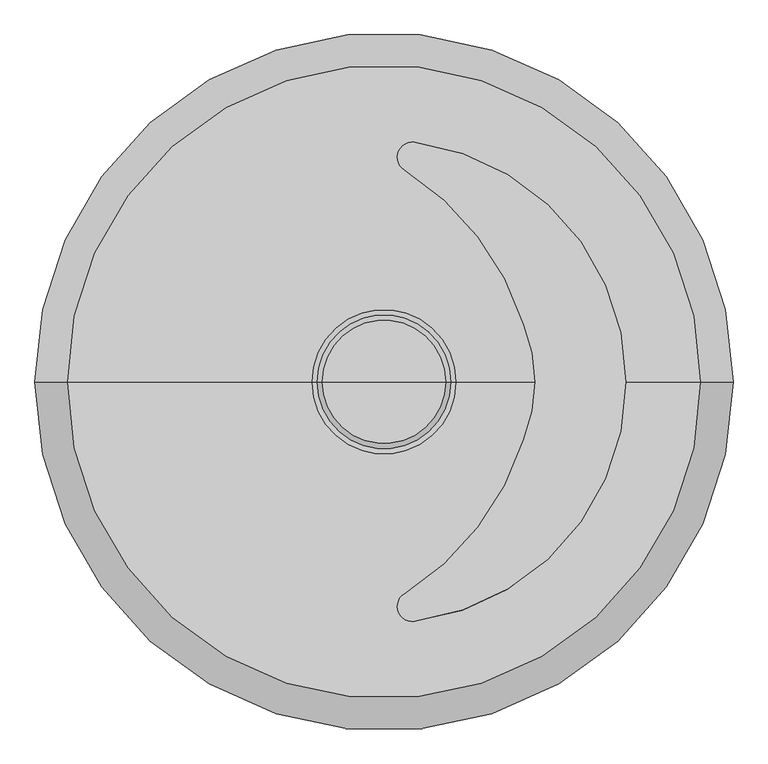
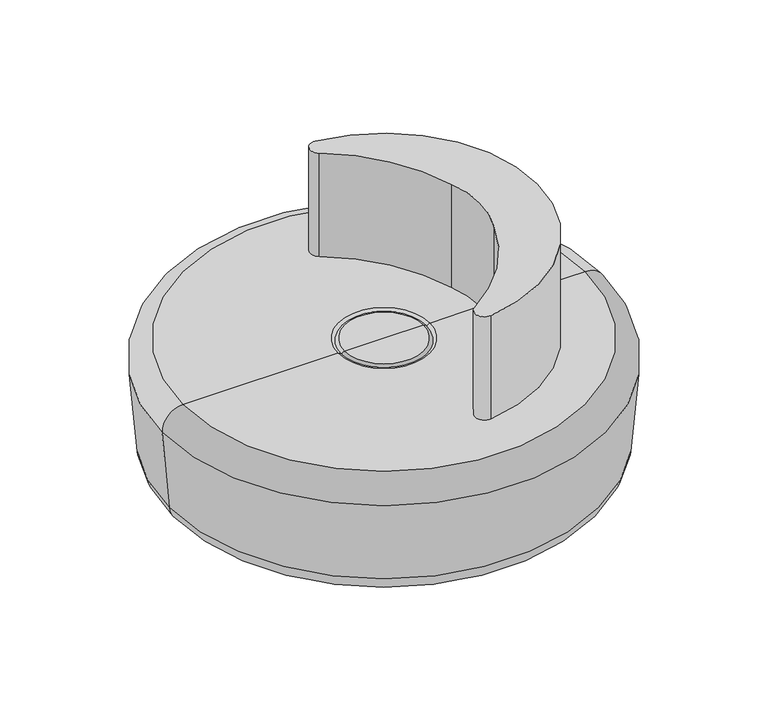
"""IFC4 building model written with IfcOpenShell, lengths in millimetres: furniture geometry, 沙发 : 沙发."""

from ifc_helpers import new_model, si_unit, point, frame, origin, place, context, project, spatial, polyline, circle_curve, ellipse_curve, trimmed, source, transform, mapped, element, save
from ifc_brep_helpers import plane_surface, cylinder_surface, revolved_surface, advanced_brep


def furniture_a10c869f(model_context):
    return source(origin(), model_context, "Body", "AdvancedBrep", [
        advanced_brep(
        [(-17.5498744, -265.0, 34.4615922), (17.5498744, -265.0, 34.4615922), (17.5498744, -265.0, 10.3132465), (-17.5498744, -265.0, 10.3132465), (-19.2120113, -265.0, 38.4743457), (19.2120113, -265.0, 38.4743457), (-20.7376656, -265.0, 40.0), (20.7376656, -265.0, 40.0), (0.0, -265.0, 40.0), (-36.2662642, -265.0, 0.0), (36.2662642, -265.0, 0.0), (0.0, -265.0, 0.0), (-20.8397737, -265.0, 5.6147834), (20.8397737, -265.0, 5.6147834)],
        [
            (0, 1, circle_curve(frame((0.0, -265.0, 34.4615922), z_axis=(0.0, 0.0, -1.0), x_axis=(1.0, 0.0, 0.0)), 17.5498744)),
            (1, 2),
            (2, 3, circle_curve(frame((0.0, -265.0, 10.3132465), z_axis=(0.0, 0.0, 1.0), x_axis=(1.0, 0.0, 0.0)), 17.5498744)),
            (3, 0),
            (1, 0, circle_curve(frame((0.0, -265.0, 34.4615922), z_axis=(0.0, 0.0, -1.0), x_axis=(1.0, 0.0, 0.0)), 17.5498744)),
            (3, 2, circle_curve(frame((0.0, -265.0, 10.3132465), z_axis=(0.0, 0.0, 1.0), x_axis=(1.0, 0.0, 0.0)), 17.5498744)),
            (4, 5, circle_curve(frame((0.0, -265.0, 38.4743457), z_axis=(0.0, 0.0, -1.0), x_axis=(1.0, 0.0, 0.0)), 19.2120113)),
            (5, 1, circle_curve(frame((23.2247649, -265.0, 34.4615922), z_axis=(0.0, -1.0, 0.0), x_axis=(1.0, 0.0, 0.0)), 5.6748905)),
            (0, 4, circle_curve(frame((-23.2247649, -265.0, 34.4615922), z_axis=(0.0, -1.0, 0.0), x_axis=(-1.0, 0.0, 0.0)), 5.6748905)),
            (5, 4, circle_curve(frame((0.0, -265.0, 38.4743457), z_axis=(0.0, 0.0, -1.0), x_axis=(1.0, 0.0, 0.0)), 19.2120113)),
            (6, 7, circle_curve(frame((0.0, -265.0, 40.0), z_axis=(0.0, 0.0, -1.0), x_axis=(1.0, 0.0, 0.0)), 20.7376656)),
            (7, 5),
            (4, 6),
            (7, 6, circle_curve(frame((0.0, -265.0, 40.0), z_axis=(0.0, 0.0, -1.0), x_axis=(1.0, 0.0, 0.0)), 20.7376656)),
            (8, 7),
            (6, 8),
            (9, 10, circle_curve(frame((0.0, -265.0, 0.0), z_axis=(0.0, 0.0, -1.0), x_axis=(1.0, 0.0, 0.0)), 36.2662642)),
            (10, 11),
            (11, 9),
            (10, 9, circle_curve(frame((0.0, -265.0, 0.0), z_axis=(0.0, 0.0, -1.0), x_axis=(1.0, 0.0, 0.0)), 36.2662642)),
            (12, 13, circle_curve(frame((0.0, -265.0, 5.6147834), z_axis=(0.0, 0.0, -1.0), x_axis=(1.0, 0.0, 0.0)), 20.8397737)),
            (13, 10),
            (9, 12),
            (13, 12, circle_curve(frame((0.0, -265.0, 5.6147834), z_axis=(0.0, 0.0, -1.0), x_axis=(1.0, 0.0, 0.0)), 20.8397737)),
            (2, 13, circle_curve(frame((22.5498744, -265.0, 10.3132465), z_axis=(0.0, -1.0, 0.0), x_axis=(1.0, 0.0, 0.0)), 5.0)),
            (12, 3, circle_curve(frame((-22.5498744, -265.0, 10.3132465), z_axis=(0.0, -1.0, 0.0), x_axis=(-1.0, 0.0, 0.0)), 5.0)),
        ],
        [
            cylinder_surface(frame((0.0, -265.0, 45.0), z_axis=(0.0, 0.0, 1.0), x_axis=(1.0, 0.0, 0.0)), 17.5498744),
            revolved_surface(trimmed(ellipse_curve(frame((23.2247649, -265.0, 34.4615922), z_axis=(0.0, 1.0, 0.0), x_axis=(1.0, 0.0, 0.0)), 5.6748905, 5.6748905), [point((17.5498744, -265.0, 34.4615922))], [point((19.2120113, -265.0, 38.4743457))], True, "CARTESIAN"), (0.0, -265.0, 45.0), (0.0, 0.0, 1.0)),
            revolved_surface(polyline([(19.2120113, -265.0, 38.4743457), (20.7376656, -265.0, 40.0)]), (0.0, -265.0, 45.0), (0.0, 0.0, 1.0)),
            plane_surface(frame((0.0, -265.0, 40.0), z_axis=(0.0, 0.0, 1.0), x_axis=(1.0, 0.0, 0.0))),
            plane_surface(frame((0.0, -265.0, 0.0), z_axis=(0.0, 0.0, -1.0), x_axis=(1.0, 0.0, 0.0))),
            revolved_surface(polyline([(36.2662642, -265.0, 0.0), (20.8397737, -265.0, 5.6147834)]), (0.0, -265.0, 45.0), (0.0, 0.0, 1.0)),
            revolved_surface(trimmed(ellipse_curve(frame((22.5498744, -265.0, 10.3132465), z_axis=(0.0, 1.0, 0.0), x_axis=(1.0, 0.0, 0.0)), 5.0, 5.0), [point((20.8397737, -265.0, 5.6147834))], [point((17.5498744, -265.0, 10.3132465))], True, "CARTESIAN"), (0.0, -265.0, 45.0), (0.0, 0.0, 1.0)),
        ],
        [
            (0, [[1, 2, 3, 4]]),
            (0, [[5, -4, 6, -2]]),
            (1, [[7, 8, -1, 9]]),
            (1, [[10, -9, -5, -8]]),
            (2, [[11, 12, -7, 13]]),
            (2, [[14, -13, -10, -12]]),
            (3, [[15, -11, 16]]),
            (3, [[-16, -14, -15]]),
            (4, [[17, 18, 19]]),
            (4, [[20, -19, -18]]),
            (5, [[21, 22, -17, 23]]),
            (5, [[24, -23, -20, -22]]),
            (6, [[-3, 25, -21, 26]]),
            (6, [[-6, -26, -24, -25]]),
        ],
    ),
        advanced_brep(
        [(-20.8397737, 265.0, 5.6147834), (20.8397737, 265.0, 5.6147834), (17.5498744, 265.0, 10.3132465), (-17.5498744, 265.0, 10.3132465), (-36.2662642, 265.0, 0.0), (36.2662642, 265.0, 0.0), (0.0, 265.0, 0.0), (-20.7376656, 265.0, 40.0), (20.7376656, 265.0, 40.0), (0.0, 265.0, 40.0), (-19.2120113, 265.0, 38.4743457), (19.2120113, 265.0, 38.4743457), (-17.5498744, 265.0, 34.4615922), (17.5498744, 265.0, 34.4615922)],
        [
            (0, 1, circle_curve(frame((0.0, 265.0, 5.6147834), z_axis=(0.0, 0.0, 1.0), x_axis=(1.0, 0.0, 0.0)), 20.8397737)),
            (1, 2, circle_curve(frame((22.5498744, 265.0, 10.3132465), z_axis=(0.0, 1.0, 0.0), x_axis=(1.0, 0.0, 0.0)), 5.0)),
            (2, 3, circle_curve(frame((0.0, 265.0, 10.3132465), z_axis=(0.0, 0.0, -1.0), x_axis=(1.0, 0.0, 0.0)), 17.5498744)),
            (3, 0, circle_curve(frame((-22.5498744, 265.0, 10.3132465), z_axis=(0.0, 1.0, 0.0), x_axis=(-1.0, 0.0, 0.0)), 5.0)),
            (1, 0, circle_curve(frame((0.0, 265.0, 5.6147834), z_axis=(0.0, 0.0, 1.0), x_axis=(1.0, 0.0, 0.0)), 20.8397737)),
            (3, 2, circle_curve(frame((0.0, 265.0, 10.3132465), z_axis=(0.0, 0.0, -1.0), x_axis=(1.0, 0.0, 0.0)), 17.5498744)),
            (4, 5, circle_curve(frame((0.0, 265.0, 0.0), z_axis=(0.0, 0.0, 1.0), x_axis=(1.0, 0.0, 0.0)), 36.2662642)),
            (5, 1),
            (0, 4),
            (5, 4, circle_curve(frame((0.0, 265.0, 0.0), z_axis=(0.0, 0.0, 1.0), x_axis=(1.0, 0.0, 0.0)), 36.2662642)),
            (6, 5),
            (4, 6),
            (7, 8, circle_curve(frame((0.0, 265.0, 40.0), z_axis=(0.0, 0.0, 1.0), x_axis=(1.0, 0.0, 0.0)), 20.7376656)),
            (8, 9),
            (9, 7),
            (8, 7, circle_curve(frame((0.0, 265.0, 40.0), z_axis=(0.0, 0.0, 1.0), x_axis=(1.0, 0.0, 0.0)), 20.7376656)),
            (10, 11, circle_curve(frame((0.0, 265.0, 38.4743457), z_axis=(0.0, 0.0, 1.0), x_axis=(1.0, 0.0, 0.0)), 19.2120113)),
            (11, 8),
            (7, 10),
            (11, 10, circle_curve(frame((0.0, 265.0, 38.4743457), z_axis=(0.0, 0.0, 1.0), x_axis=(1.0, 0.0, 0.0)), 19.2120113)),
            (12, 13, circle_curve(frame((0.0, 265.0, 34.4615922), z_axis=(0.0, 0.0, 1.0), x_axis=(1.0, 0.0, 0.0)), 17.5498744)),
            (13, 11, circle_curve(frame((23.2247649, 265.0, 34.4615922), z_axis=(0.0, 1.0, 0.0), x_axis=(1.0, 0.0, 0.0)), 5.6748905)),
            (10, 12, circle_curve(frame((-23.2247649, 265.0, 34.4615922), z_axis=(0.0, 1.0, 0.0), x_axis=(-1.0, 0.0, 0.0)), 5.6748905)),
            (13, 12, circle_curve(frame((0.0, 265.0, 34.4615922), z_axis=(0.0, 0.0, 1.0), x_axis=(1.0, 0.0, 0.0)), 17.5498744)),
            (2, 13),
            (12, 3),
        ],
        [
            revolved_surface(trimmed(ellipse_curve(frame((22.5498744, 265.0, 10.3132465), z_axis=(0.0, -1.0, 0.0), x_axis=(1.0, 0.0, 0.0)), 5.0, 5.0), [point((17.5498744, 265.0, 10.3132465))], [point((20.8397737, 265.0, 5.6147834))], True, "CARTESIAN"), (0.0, 265.0, 45.0), (0.0, 0.0, -1.0)),
            revolved_surface(polyline([(20.8397737, 265.0, 5.6147834), (36.2662642, 265.0, 0.0)]), (0.0, 265.0, 45.0), (0.0, 0.0, -1.0)),
            plane_surface(frame((0.0, 265.0, 0.0), z_axis=(0.0, 0.0, -1.0), x_axis=(1.0, 0.0, 0.0))),
            plane_surface(frame((0.0, 265.0, 40.0), z_axis=(0.0, 0.0, 1.0), x_axis=(1.0, 0.0, 0.0))),
            revolved_surface(polyline([(20.7376656, 265.0, 40.0), (19.2120113, 265.0, 38.4743457)]), (0.0, 265.0, 45.0), (0.0, 0.0, -1.0)),
            revolved_surface(trimmed(ellipse_curve(frame((23.2247649, 265.0, 34.4615922), z_axis=(0.0, -1.0, 0.0), x_axis=(1.0, 0.0, 0.0)), 5.6748905, 5.6748905), [point((19.2120113, 265.0, 38.4743457))], [point((17.5498744, 265.0, 34.4615922))], True, "CARTESIAN"), (0.0, 265.0, 45.0), (0.0, 0.0, -1.0)),
            cylinder_surface(frame((0.0, 265.0, 45.0), z_axis=(0.0, 0.0, -1.0), x_axis=(1.0, 0.0, 0.0)), 17.5498744),
        ],
        [
            (0, [[1, 2, 3, 4]]),
            (0, [[5, -4, 6, -2]]),
            (1, [[7, 8, -1, 9]]),
            (1, [[10, -9, -5, -8]]),
            (2, [[11, -7, 12]]),
            (2, [[-12, -10, -11]]),
            (3, [[13, 14, 15]]),
            (3, [[16, -15, -14]]),
            (4, [[17, 18, -13, 19]]),
            (4, [[20, -19, -16, -18]]),
            (5, [[21, 22, -17, 23]]),
            (5, [[24, -23, -20, -22]]),
            (6, [[-3, 25, -21, 26]]),
            (6, [[-6, -26, -24, -25]]),
        ],
    ),
        advanced_brep(
        [(-282.5498744, 0.0, 34.4615922), (-247.4501256, 0.0, 34.4615922), (-247.4501256, 0.0, 10.3132465), (-282.5498744, 0.0, 10.3132465), (-284.2120113, 0.0, 38.4743457), (-245.7879887, 0.0, 38.4743457), (-285.7376656, 0.0, 40.0), (-244.2623344, 0.0, 40.0), (-265.0, 0.0, 40.0), (-301.2662642, 0.0, 0.0), (-228.7337358, 0.0, 0.0), (-265.0, 0.0, 0.0), (-285.8397737, 0.0, 5.6147834), (-244.1602263, 0.0, 5.6147834)],
        [
            (0, 1, circle_curve(frame((-265.0, 0.0, 34.4615922), z_axis=(0.0, 0.0, -1.0), x_axis=(1.0, 0.0, 0.0)), 17.5498744)),
            (1, 2),
            (2, 3, circle_curve(frame((-265.0, 0.0, 10.3132465), z_axis=(0.0, 0.0, 1.0), x_axis=(1.0, 0.0, 0.0)), 17.5498744)),
            (3, 0),
            (1, 0, circle_curve(frame((-265.0, 0.0, 34.4615922), z_axis=(0.0, 0.0, -1.0), x_axis=(1.0, 0.0, 0.0)), 17.5498744)),
            (3, 2, circle_curve(frame((-265.0, 0.0, 10.3132465), z_axis=(0.0, 0.0, 1.0), x_axis=(1.0, 0.0, 0.0)), 17.5498744)),
            (4, 5, circle_curve(frame((-265.0, 0.0, 38.4743457), z_axis=(0.0, 0.0, -1.0), x_axis=(1.0, 0.0, 0.0)), 19.2120113)),
            (5, 1, circle_curve(frame((-241.7752351, 0.0, 34.4615922), z_axis=(0.0, -1.0, 0.0), x_axis=(1.0, 0.0, 0.0)), 5.6748905)),
            (0, 4, circle_curve(frame((-288.2247649, 0.0, 34.4615922), z_axis=(0.0, -1.0, 0.0), x_axis=(-1.0, 0.0, 0.0)), 5.6748905)),
            (5, 4, circle_curve(frame((-265.0, 0.0, 38.4743457), z_axis=(0.0, 0.0, -1.0), x_axis=(1.0, 0.0, 0.0)), 19.2120113)),
            (6, 7, circle_curve(frame((-265.0, 0.0, 40.0), z_axis=(0.0, 0.0, -1.0), x_axis=(1.0, 0.0, 0.0)), 20.7376656)),
            (7, 5),
            (4, 6),
            (7, 6, circle_curve(frame((-265.0, 0.0, 40.0), z_axis=(0.0, 0.0, -1.0), x_axis=(1.0, 0.0, 0.0)), 20.7376656)),
            (8, 7),
            (6, 8),
            (9, 10, circle_curve(frame((-265.0, 0.0, 0.0), z_axis=(0.0, 0.0, -1.0), x_axis=(1.0, 0.0, 0.0)), 36.2662642)),
            (10, 11),
            (11, 9),
            (10, 9, circle_curve(frame((-265.0, 0.0, 0.0), z_axis=(0.0, 0.0, -1.0), x_axis=(1.0, 0.0, 0.0)), 36.2662642)),
            (12, 13, circle_curve(frame((-265.0, 0.0, 5.6147834), z_axis=(0.0, 0.0, -1.0), x_axis=(1.0, 0.0, 0.0)), 20.8397737)),
            (13, 10),
            (9, 12),
            (13, 12, circle_curve(frame((-265.0, 0.0, 5.6147834), z_axis=(0.0, 0.0, -1.0), x_axis=(1.0, 0.0, 0.0)), 20.8397737)),
            (2, 13, circle_curve(frame((-242.4501256, 0.0, 10.3132465), z_axis=(0.0, -1.0, 0.0), x_axis=(1.0, 0.0, 0.0)), 5.0)),
            (12, 3, circle_curve(frame((-287.5498744, 0.0, 10.3132465), z_axis=(0.0, -1.0, 0.0), x_axis=(-1.0, 0.0, 0.0)), 5.0)),
        ],
        [
            cylinder_surface(frame((-265.0, 0.0, 45.0), z_axis=(0.0, 0.0, 1.0), x_axis=(1.0, 0.0, 0.0)), 17.5498744),
            revolved_surface(trimmed(ellipse_curve(frame((-241.7752351, 0.0, 34.4615922), z_axis=(0.0, 1.0, 0.0), x_axis=(1.0, 0.0, 0.0)), 5.6748905, 5.6748905), [point((-247.4501256, 0.0, 34.4615922))], [point((-245.7879887, 0.0, 38.4743457))], True, "CARTESIAN"), (-265.0, 0.0, 45.0), (0.0, 0.0, 1.0)),
            revolved_surface(polyline([(-245.7879887, 0.0, 38.4743457), (-244.2623344, 0.0, 40.0)]), (-265.0, 0.0, 45.0), (0.0, 0.0, 1.0)),
            plane_surface(frame((-265.0, 0.0, 40.0), z_axis=(0.0, 0.0, 1.0), x_axis=(1.0, 0.0, 0.0))),
            plane_surface(frame((-265.0, 0.0, 0.0), z_axis=(0.0, 0.0, -1.0), x_axis=(1.0, 0.0, 0.0))),
            revolved_surface(polyline([(-228.7337358, 0.0, 0.0), (-244.1602263, 0.0, 5.6147834)]), (-265.0, 0.0, 45.0), (0.0, 0.0, 1.0)),
            revolved_surface(trimmed(ellipse_curve(frame((-242.4501256, 0.0, 10.3132465), z_axis=(0.0, 1.0, 0.0), x_axis=(1.0, 0.0, 0.0)), 5.0, 5.0), [point((-244.1602263, 0.0, 5.6147834))], [point((-247.4501256, 0.0, 10.3132465))], True, "CARTESIAN"), (-265.0, 0.0, 45.0), (0.0, 0.0, 1.0)),
        ],
        [
            (0, [[1, 2, 3, 4]]),
            (0, [[5, -4, 6, -2]]),
            (1, [[7, 8, -1, 9]]),
            (1, [[10, -9, -5, -8]]),
            (2, [[11, 12, -7, 13]]),
            (2, [[14, -13, -10, -12]]),
            (3, [[15, -11, 16]]),
            (3, [[-16, -14, -15]]),
            (4, [[17, 18, 19]]),
            (4, [[20, -19, -18]]),
            (5, [[21, 22, -17, 23]]),
            (5, [[24, -23, -20, -22]]),
            (6, [[-3, 25, -21, 26]]),
            (6, [[-6, -26, -24, -25]]),
        ],
    ),
        advanced_brep(
        [(247.4501256, 0.0, 34.4615922), (282.5498744, 0.0, 34.4615922), (282.5498744, 0.0, 10.3132465), (247.4501256, 0.0, 10.3132465), (245.7879887, 0.0, 38.4743457), (284.2120113, 0.0, 38.4743457), (244.2623344, 0.0, 40.0), (285.7376656, 0.0, 40.0), (265.0, 0.0, 40.0), (228.7337358, 0.0, 0.0), (301.2662642, 0.0, 0.0), (265.0, 0.0, 0.0), (244.1602263, 0.0, 5.6147834), (285.8397737, 0.0, 5.6147834)],
        [
            (0, 1, circle_curve(frame((265.0, 0.0, 34.4615922), z_axis=(0.0, 0.0, -1.0), x_axis=(1.0, 0.0, 0.0)), 17.5498744)),
            (1, 2),
            (2, 3, circle_curve(frame((265.0, 0.0, 10.3132465), z_axis=(0.0, 0.0, 1.0), x_axis=(1.0, 0.0, 0.0)), 17.5498744)),
            (3, 0),
            (1, 0, circle_curve(frame((265.0, 0.0, 34.4615922), z_axis=(0.0, 0.0, -1.0), x_axis=(1.0, 0.0, 0.0)), 17.5498744)),
            (3, 2, circle_curve(frame((265.0, 0.0, 10.3132465), z_axis=(0.0, 0.0, 1.0), x_axis=(1.0, 0.0, 0.0)), 17.5498744)),
            (4, 5, circle_curve(frame((265.0, 0.0, 38.4743457), z_axis=(0.0, 0.0, -1.0), x_axis=(1.0, 0.0, 0.0)), 19.2120113)),
            (5, 1, circle_curve(frame((288.2247649, 0.0, 34.4615922), z_axis=(0.0, -1.0, 0.0), x_axis=(1.0, 0.0, 0.0)), 5.6748905)),
            (0, 4, circle_curve(frame((241.7752351, 0.0, 34.4615922), z_axis=(0.0, -1.0, 0.0), x_axis=(-1.0, 0.0, 0.0)), 5.6748905)),
            (5, 4, circle_curve(frame((265.0, 0.0, 38.4743457), z_axis=(0.0, 0.0, -1.0), x_axis=(1.0, 0.0, 0.0)), 19.2120113)),
            (6, 7, circle_curve(frame((265.0, 0.0, 40.0), z_axis=(0.0, 0.0, -1.0), x_axis=(1.0, 0.0, 0.0)), 20.7376656)),
            (7, 5),
            (4, 6),
            (7, 6, circle_curve(frame((265.0, 0.0, 40.0), z_axis=(0.0, 0.0, -1.0), x_axis=(1.0, 0.0, 0.0)), 20.7376656)),
            (8, 7),
            (6, 8),
            (9, 10, circle_curve(frame((265.0, 0.0, 0.0), z_axis=(0.0, 0.0, -1.0), x_axis=(1.0, 0.0, 0.0)), 36.2662642)),
            (10, 11),
            (11, 9),
            (10, 9, circle_curve(frame((265.0, 0.0, 0.0), z_axis=(0.0, 0.0, -1.0), x_axis=(1.0, 0.0, 0.0)), 36.2662642)),
            (12, 13, circle_curve(frame((265.0, 0.0, 5.6147834), z_axis=(0.0, 0.0, -1.0), x_axis=(1.0, 0.0, 0.0)), 20.8397737)),
            (13, 10),
            (9, 12),
            (13, 12, circle_curve(frame((265.0, 0.0, 5.6147834), z_axis=(0.0, 0.0, -1.0), x_axis=(1.0, 0.0, 0.0)), 20.8397737)),
            (2, 13, circle_curve(frame((287.5498744, 0.0, 10.3132465), z_axis=(0.0, -1.0, 0.0), x_axis=(1.0, 0.0, 0.0)), 5.0)),
            (12, 3, circle_curve(frame((242.4501256, 0.0, 10.3132465), z_axis=(0.0, -1.0, 0.0), x_axis=(-1.0, 0.0, 0.0)), 5.0)),
        ],
        [
            cylinder_surface(frame((265.0, 0.0, 45.0), z_axis=(0.0, 0.0, 1.0), x_axis=(1.0, 0.0, 0.0)), 17.5498744),
            revolved_surface(trimmed(ellipse_curve(frame((288.2247649, 0.0, 34.4615922), z_axis=(0.0, 1.0, 0.0), x_axis=(1.0, 0.0, 0.0)), 5.6748905, 5.6748905), [point((282.5498744, 0.0, 34.4615922))], [point((284.2120113, 0.0, 38.4743457))], True, "CARTESIAN"), (265.0, 0.0, 45.0), (0.0, 0.0, 1.0)),
            revolved_surface(polyline([(284.2120113, 0.0, 38.4743457), (285.7376656, 0.0, 40.0)]), (265.0, 0.0, 45.0), (0.0, 0.0, 1.0)),
            plane_surface(frame((265.0, 0.0, 40.0), z_axis=(0.0, 0.0, 1.0), x_axis=(1.0, 0.0, 0.0))),
            plane_surface(frame((265.0, 0.0, 0.0), z_axis=(0.0, 0.0, -1.0), x_axis=(1.0, 0.0, 0.0))),
            revolved_surface(polyline([(301.2662642, 0.0, 0.0), (285.8397737, 0.0, 5.6147834)]), (265.0, 0.0, 45.0), (0.0, 0.0, 1.0)),
            revolved_surface(trimmed(ellipse_curve(frame((287.5498744, 0.0, 10.3132465), z_axis=(0.0, 1.0, 0.0), x_axis=(1.0, 0.0, 0.0)), 5.0, 5.0), [point((285.8397737, 0.0, 5.6147834))], [point((282.5498744, 0.0, 10.3132465))], True, "CARTESIAN"), (265.0, 0.0, 45.0), (0.0, 0.0, 1.0)),
        ],
        [
            (0, [[1, 2, 3, 4]]),
            (0, [[5, -4, 6, -2]]),
            (1, [[7, 8, -1, 9]]),
            (1, [[10, -9, -5, -8]]),
            (2, [[11, 12, -7, 13]]),
            (2, [[14, -13, -10, -12]]),
            (3, [[15, -11, 16]]),
            (3, [[-16, -14, -15]]),
            (4, [[17, 18, 19]]),
            (4, [[20, -19, -18]]),
            (5, [[21, 22, -17, 23]]),
            (5, [[24, -23, -20, -22]]),
            (6, [[-3, 25, -21, 26]]),
            (6, [[-6, -26, -24, -25]]),
        ],
    ),
        advanced_brep(
        [(0.0, 0.0, 400.0), (114.6484146, 0.0, 400.0), (-114.6484146, 0.0, 400.0), (-569.2636361, 0.0, 40.0), (569.2636361, 0.0, 40.0), (0.0, 0.0, 40.0), (-629.0563816, 0.0, 95.0172712), (629.0563816, 0.0, 95.0172712), (-649.0563816, 0.0, 335.0172712), (649.0563816, 0.0, 335.0172712), (-589.2636361, 0.0, 400.0), (589.2636361, 0.0, 400.0), (-134.6484146, 0.0, 400.0), (134.6484146, 0.0, 400.0), (280.7897726, 0.0, 400.0), (259.5949514, 107.0203608, 400.0), (38.123012, 394.0065954, 400.0), (56.4986355, 445.6968913, 400.0), (449.2636361, 0.0, 400.0), (56.4986355, -445.6968913, 400.0), (38.123012, -394.0065954, 400.0), (259.5949514, -107.0203608, 400.0), (-124.6484146, 0.0, 390.0), (124.6484146, 0.0, 390.0), (56.4986355, 445.6968913, 720.0), (38.123012, 394.0065954, 720.0), (259.5949514, 107.0203608, 720.0), (259.5949514, -107.0203608, 720.0), (38.123012, -394.0065954, 720.0), (56.4986355, -445.6968913, 720.0)],
        [
            (0, 1),
            (1, 2, circle_curve(frame((0.0, 0.0, 400.0), z_axis=(0.0, 0.0, 1.0), x_axis=(1.0, 0.0, 0.0)), 114.6484146)),
            (2, 0),
            (2, 1, circle_curve(frame((0.0, 0.0, 400.0), z_axis=(0.0, 0.0, 1.0), x_axis=(1.0, 0.0, 0.0)), 114.6484146)),
            (3, 4, circle_curve(frame((0.0, 0.0, 40.0), z_axis=(0.0, 0.0, -1.0), x_axis=(1.0, 0.0, 0.0)), 569.2636361)),
            (4, 5),
            (5, 3),
            (4, 3, circle_curve(frame((0.0, 0.0, 40.0), z_axis=(0.0, 0.0, -1.0), x_axis=(1.0, 0.0, 0.0)), 569.2636361)),
            (3, 6, circle_curve(frame((-569.2636361, 0.0, 100.0), z_axis=(0.0, 1.0, 0.0), x_axis=(-1.0, 0.0, 0.0)), 60.0)),
            (6, 7, circle_curve(frame((0.0, 0.0, 95.0172712), z_axis=(0.0, 0.0, -1.0), x_axis=(1.0, 0.0, 0.0)), 629.0563816)),
            (7, 4, circle_curve(frame((569.2636361, 0.0, 100.0), z_axis=(0.0, 1.0, 0.0), x_axis=(1.0, 0.0, 0.0)), 60.0)),
            (7, 6, circle_curve(frame((0.0, 0.0, 95.0172712), z_axis=(0.0, 0.0, -1.0), x_axis=(1.0, 0.0, 0.0)), 629.0563816)),
            (6, 8),
            (8, 9, circle_curve(frame((0.0, 0.0, 335.0172712), z_axis=(0.0, 0.0, -1.0), x_axis=(1.0, 0.0, 0.0)), 649.0563816)),
            (9, 7),
            (9, 8, circle_curve(frame((0.0, 0.0, 335.0172712), z_axis=(0.0, 0.0, -1.0), x_axis=(1.0, 0.0, 0.0)), 649.0563816)),
            (8, 10, circle_curve(frame((-589.2636361, 0.0, 340.0), z_axis=(0.0, 1.0, 0.0), x_axis=(-1.0, 0.0, 0.0)), 60.0)),
            (10, 11, circle_curve(frame((0.0, 0.0, 400.0), z_axis=(0.0, 0.0, -1.0), x_axis=(1.0, 0.0, 0.0)), 589.2636361)),
            (11, 9, circle_curve(frame((589.2636361, 0.0, 340.0), z_axis=(0.0, 1.0, 0.0), x_axis=(1.0, 0.0, 0.0)), 60.0)),
            (11, 10, circle_curve(frame((0.0, 0.0, 400.0), z_axis=(0.0, 0.0, -1.0), x_axis=(1.0, 0.0, 0.0)), 589.2636361)),
            (10, 12),
            (12, 13, circle_curve(frame((0.0, 0.0, 400.0), z_axis=(0.0, 0.0, -1.0), x_axis=(1.0, 0.0, 0.0)), 134.6484146)),
            (13, 14),
            (14, 15, circle_curve(frame((0.0, 0.0, 400.0), z_axis=(0.0, 0.0, 1.0), x_axis=(1.0, 0.0, 0.0)), 280.7897726)),
            (15, 16, circle_curve(frame((-236.4359852, -46.824907, 400.0), z_axis=(0.0, 0.0, 1.0), x_axis=(1.0, 0.0, 0.0)), 519.3409828)),
            (16, 17, circle_curve(frame((52.9674708, 417.8408356, 400.0), z_axis=(0.0, 0.0, -1.0), x_axis=(1.0, 0.0, 0.0)), 28.0789773)),
            (17, 18, circle_curve(frame((0.0, 0.0, 400.0), z_axis=(0.0, 0.0, -1.0), x_axis=(1.0, 0.0, 0.0)), 449.2636361)),
            (18, 11),
            (18, 19, circle_curve(frame((0.0, 0.0, 400.0), z_axis=(0.0, 0.0, -1.0), x_axis=(1.0, 0.0, 0.0)), 449.2636361)),
            (19, 20, circle_curve(frame((52.9674708, -417.8408356, 400.0), z_axis=(0.0, 0.0, -1.0), x_axis=(1.0, 0.0, 0.0)), 28.0789773)),
            (20, 21, circle_curve(frame((-236.4359852, 46.824907, 400.0), z_axis=(0.0, 0.0, 1.0), x_axis=(1.0, 0.0, 0.0)), 519.3409828)),
            (21, 14, circle_curve(frame((0.0, 0.0, 400.0), z_axis=(0.0, 0.0, 1.0), x_axis=(1.0, 0.0, 0.0)), 280.7897726)),
            (13, 12, circle_curve(frame((0.0, 0.0, 400.0), z_axis=(0.0, 0.0, -1.0), x_axis=(1.0, 0.0, 0.0)), 134.6484146)),
            (12, 22, circle_curve(frame((-134.6484146, 0.0, 390.0), z_axis=(0.0, 1.0, 0.0), x_axis=(-1.0, 0.0, 0.0)), 10.0)),
            (22, 23, circle_curve(frame((0.0, 0.0, 390.0), z_axis=(0.0, 0.0, -1.0), x_axis=(1.0, 0.0, 0.0)), 124.6484146)),
            (23, 13, circle_curve(frame((134.6484146, 0.0, 390.0), z_axis=(0.0, 1.0, 0.0), x_axis=(1.0, 0.0, 0.0)), 10.0)),
            (23, 22, circle_curve(frame((0.0, 0.0, 390.0), z_axis=(0.0, 0.0, -1.0), x_axis=(1.0, 0.0, 0.0)), 124.6484146)),
            (1, 23, circle_curve(frame((114.6484146, 0.0, 390.0), z_axis=(0.0, 1.0, 0.0), x_axis=(1.0, 0.0, 0.0)), 10.0)),
            (22, 2, circle_curve(frame((-114.6484146, 0.0, 390.0), z_axis=(0.0, 1.0, 0.0), x_axis=(-1.0, 0.0, 0.0)), 10.0)),
            (24, 25, circle_curve(frame((52.9674708, 417.8408356, 720.0), z_axis=(0.0, 0.0, 1.0), x_axis=(1.0, 0.0, 0.0)), 28.0789773)),
            (25, 26, circle_curve(frame((-236.4359852, -46.824907, 720.0), z_axis=(0.0, 0.0, -1.0), x_axis=(1.0, 0.0, 0.0)), 519.3409828)),
            (26, 27, circle_curve(frame((0.0, 0.0, 720.0), z_axis=(0.0, 0.0, -1.0), x_axis=(1.0, 0.0, 0.0)), 280.7897726)),
            (27, 28, circle_curve(frame((-236.4359852, 46.824907, 720.0), z_axis=(0.0, 0.0, -1.0), x_axis=(1.0, 0.0, 0.0)), 519.3409828)),
            (28, 29, circle_curve(frame((52.9674708, -417.8408356, 720.0), z_axis=(0.0, 0.0, 1.0), x_axis=(1.0, 0.0, 0.0)), 28.0789773)),
            (29, 24, circle_curve(frame((0.0, 0.0, 720.0), z_axis=(0.0, 0.0, 1.0), x_axis=(1.0, 0.0, 0.0)), 449.2636361)),
            (29, 19),
            (17, 24),
            (28, 20),
            (27, 21),
            (26, 15),
            (25, 16),
        ],
        [
            plane_surface(frame((0.0, 0.0, 400.0), z_axis=(0.0, 0.0, 1.0), x_axis=(1.0, 0.0, 0.0))),
            plane_surface(frame((0.0, 0.0, 40.0), z_axis=(0.0, 0.0, -1.0), x_axis=(1.0, 0.0, 0.0))),
            revolved_surface(trimmed(ellipse_curve(frame((569.2636361, 0.0, 100.0), z_axis=(0.0, -1.0, 0.0), x_axis=(1.0, 0.0, 0.0)), 60.0, 60.0), [point((569.2636361, 0.0, 40.0))], [point((629.0563816, 0.0, 95.0172712))], True, "CARTESIAN"), (0.0, 0.0, 500.0), (0.0, 0.0, 1.0)),
            revolved_surface(polyline([(629.0563816, 0.0, 95.0172712), (649.0563816, 0.0, 335.0172712)]), (0.0, 0.0, 500.0), (0.0, 0.0, 1.0)),
            revolved_surface(trimmed(ellipse_curve(frame((589.2636361, 0.0, 340.0), z_axis=(0.0, -1.0, 0.0), x_axis=(1.0, 0.0, 0.0)), 60.0, 60.0), [point((649.0563816, 0.0, 335.0172712))], [point((589.2636361, 0.0, 400.0))], True, "CARTESIAN"), (0.0, 0.0, 500.0), (0.0, 0.0, 1.0)),
            revolved_surface(trimmed(ellipse_curve(frame((134.6484146, 0.0, 390.0), z_axis=(0.0, -1.0, 0.0), x_axis=(1.0, 0.0, 0.0)), 10.0, 10.0), [point((134.6484146, 0.0, 400.0))], [point((124.6484146, 0.0, 390.0))], True, "CARTESIAN"), (0.0, 0.0, 500.0), (0.0, 0.0, 1.0)),
            revolved_surface(trimmed(ellipse_curve(frame((114.6484146, 0.0, 390.0), z_axis=(0.0, -1.0, 0.0), x_axis=(1.0, 0.0, 0.0)), 10.0, 10.0), [point((124.6484146, 0.0, 390.0))], [point((114.6484146, 0.0, 400.0))], True, "CARTESIAN"), (0.0, 0.0, 500.0), (0.0, 0.0, 1.0)),
            plane_surface(frame((0.0, 0.0, 720.0), z_axis=(0.0, 0.0, 1.0), x_axis=(1.0, 0.0, 0.0))),
            cylinder_surface(frame((0.0, 0.0, 355.0), z_axis=(0.0, 0.0, -1.0), x_axis=(1.0, 0.0, 0.0)), 449.2636361),
            cylinder_surface(frame((52.9674708, -417.8408356, 355.0), z_axis=(0.0, 0.0, -1.0), x_axis=(1.0, 0.0, 0.0)), 28.0789773),
            revolved_surface(polyline([(282.9049976, 46.824907, 720.0), (282.9049976, 46.824907, 400.0)]), (-236.4359852, 46.824907, 355.0), (0.0, 0.0, 1.0)),
            revolved_surface(polyline([(280.7897726, 0.0, 720.0), (280.7897726, 0.0, 400.0)]), (0.0, 0.0, 355.0), (0.0, 0.0, 1.0)),
            revolved_surface(polyline([(282.9049976, -46.824907, 720.0), (282.9049976, -46.824907, 400.0)]), (-236.4359852, -46.824907, 355.0), (0.0, 0.0, 1.0)),
            cylinder_surface(frame((52.9674708, 417.8408356, 355.0), z_axis=(0.0, 0.0, -1.0), x_axis=(1.0, 0.0, 0.0)), 28.0789773),
        ],
        [
            (0, [[1, 2, 3]]),
            (0, [[-1, -3, 4]]),
            (1, [[5, 6, 7]]),
            (1, [[-6, 8, -7]]),
            (2, [[-5, 9, 10, 11]]),
            (2, [[-8, -11, 12, -9]]),
            (3, [[-10, 13, 14, 15]]),
            (3, [[-12, -15, 16, -13]]),
            (4, [[-14, 17, 18, 19]]),
            (4, [[-16, -19, 20, -17]]),
            (0, [[-18, 21, 22, 23, 24, 25, 26, 27, 28]]),
            (0, [[-20, -28, 29, 30, 31, 32, -23, 33, -21]]),
            (5, [[-22, 34, 35, 36]]),
            (5, [[-33, -36, 37, -34]]),
            (6, [[-2, 38, -35, 39]]),
            (6, [[-4, -39, -37, -38]]),
            (7, [[40, 41, 42, 43, 44, 45]]),
            (8, [[-45, 46, -29, -27, 47]]),
            (9, [[-44, 48, -30, -46]]),
            (10, [[-43, 49, -31, -48]]),
            (11, [[-42, 50, -24, -32, -49]]),
            (12, [[-41, 51, -25, -50]]),
            (13, [[-40, -47, -26, -51]]),
        ],
    ),
    ])


if __name__ == "__main__":
    model = new_model("IFC4")
    model_context = context("Model", 3, world=origin())
    ifc_project = project(units=[si_unit("LENGTHUNIT", "METRE", prefix="MILLI")], contexts=[model_context])
    site = spatial("IfcSite", under=ifc_project)
    building = spatial("IfcBuilding", under=site)
    placement = place(None, origin())
    furniture_shape = furniture_a10c869f(model_context)
    element("IfcFurniture", 1, ObjectType="沙发 : 沙发", at=placement, inside=building, context=model_context, shape_type="MappedRepresentation", body=[
        mapped(furniture_shape, transform((0.0, 0.0, 0.0), x_axis=(1.0, 0.0, 0.0), y_axis=(0.0, 1.0, 0.0), z_axis=(0.0, 0.0, 1.0))),
    ])
    save(model, "model.ifc")
